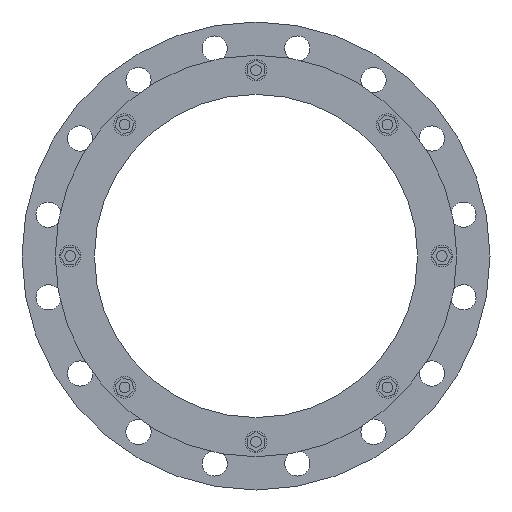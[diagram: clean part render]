
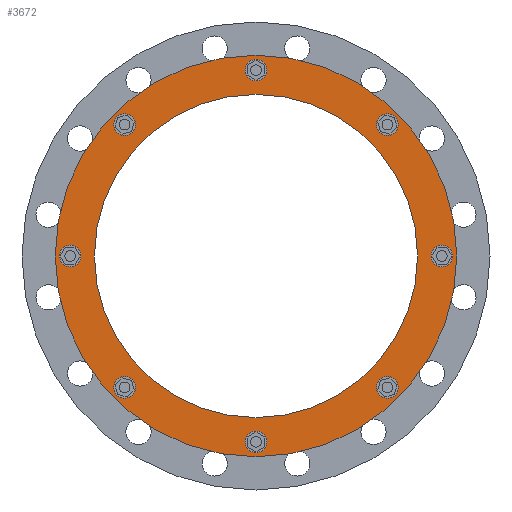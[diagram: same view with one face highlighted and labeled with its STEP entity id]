
A CAD part, front view. The second image highlights one B-rep face of the part: STEP entity #3672.
In plain terms, the highlighted planar face has unit normal (0, -1, 0).
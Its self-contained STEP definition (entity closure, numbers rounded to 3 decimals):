
#911=CARTESIAN_POINT('',(0.,-99.452,0.));
#912=DIRECTION('',(0.,-1.,0.));
#913=DIRECTION('',(1.,0.,0.));
#914=AXIS2_PLACEMENT_3D('',#911,#912,#913);
#916=CARTESIAN_POINT('',(0.,-99.452,0.));
#917=DIRECTION('',(0.,1.,0.));
#918=DIRECTION('',(1.,0.,0.));
#919=AXIS2_PLACEMENT_3D('',#916,#917,#918);
#921=CARTESIAN_POINT('',(206.5,-99.452,0.));
#922=DIRECTION('',(0.,-1.,0.));
#923=DIRECTION('',(0.,0.,-1.));
#924=AXIS2_PLACEMENT_3D('',#921,#922,#923);
#926=CARTESIAN_POINT('',(206.5,-99.452,0.));
#927=DIRECTION('',(0.,-1.,0.));
#928=DIRECTION('',(0.,0.,1.));
#929=AXIS2_PLACEMENT_3D('',#926,#927,#928);
#931=CARTESIAN_POINT('',(146.018,-99.452,146.018));
#932=DIRECTION('',(0.,-1.,0.));
#933=DIRECTION('',(0.707,0.,-0.707));
#934=AXIS2_PLACEMENT_3D('',#931,#932,#933);
#936=CARTESIAN_POINT('',(146.018,-99.452,146.018));
#937=DIRECTION('',(0.,-1.,0.));
#938=DIRECTION('',(-0.707,0.,0.707));
#939=AXIS2_PLACEMENT_3D('',#936,#937,#938);
#941=CARTESIAN_POINT('',(0.,-99.452,206.5));
#942=DIRECTION('',(0.,-1.,0.));
#943=DIRECTION('',(1.,0.,0.));
#944=AXIS2_PLACEMENT_3D('',#941,#942,#943);
#946=CARTESIAN_POINT('',(0.,-99.452,206.5));
#947=DIRECTION('',(0.,-1.,0.));
#948=DIRECTION('',(-1.,0.,0.));
#949=AXIS2_PLACEMENT_3D('',#946,#947,#948);
#951=CARTESIAN_POINT('',(-146.018,-99.452,146.018));
#952=DIRECTION('',(0.,-1.,0.));
#953=DIRECTION('',(0.707,0.,0.707));
#954=AXIS2_PLACEMENT_3D('',#951,#952,#953);
#956=CARTESIAN_POINT('',(-146.018,-99.452,146.018));
#957=DIRECTION('',(0.,-1.,0.));
#958=DIRECTION('',(-0.707,0.,-0.707));
#959=AXIS2_PLACEMENT_3D('',#956,#957,#958);
#961=CARTESIAN_POINT('',(-206.5,-99.452,0.));
#962=DIRECTION('',(0.,-1.,0.));
#963=DIRECTION('',(0.,0.,1.));
#964=AXIS2_PLACEMENT_3D('',#961,#962,#963);
#966=CARTESIAN_POINT('',(-206.5,-99.452,0.));
#967=DIRECTION('',(0.,-1.,0.));
#968=DIRECTION('',(0.,0.,-1.));
#969=AXIS2_PLACEMENT_3D('',#966,#967,#968);
#971=CARTESIAN_POINT('',(-146.018,-99.452,-146.018));
#972=DIRECTION('',(0.,-1.,0.));
#973=DIRECTION('',(-0.707,0.,0.707));
#974=AXIS2_PLACEMENT_3D('',#971,#972,#973);
#976=CARTESIAN_POINT('',(-146.018,-99.452,-146.018));
#977=DIRECTION('',(0.,-1.,0.));
#978=DIRECTION('',(0.707,0.,-0.707));
#979=AXIS2_PLACEMENT_3D('',#976,#977,#978);
#981=CARTESIAN_POINT('',(0.,-99.452,-206.5));
#982=DIRECTION('',(0.,-1.,0.));
#983=DIRECTION('',(-1.,0.,0.));
#984=AXIS2_PLACEMENT_3D('',#981,#982,#983);
#986=CARTESIAN_POINT('',(0.,-99.452,-206.5));
#987=DIRECTION('',(0.,-1.,0.));
#988=DIRECTION('',(1.,0.,0.));
#989=AXIS2_PLACEMENT_3D('',#986,#987,#988);
#991=CARTESIAN_POINT('',(146.018,-99.452,-146.018));
#992=DIRECTION('',(0.,-1.,0.));
#993=DIRECTION('',(-0.707,0.,-0.707));
#994=AXIS2_PLACEMENT_3D('',#991,#992,#993);
#996=CARTESIAN_POINT('',(146.018,-99.452,-146.018));
#997=DIRECTION('',(0.,-1.,0.));
#998=DIRECTION('',(0.707,0.,0.707));
#999=AXIS2_PLACEMENT_3D('',#996,#997,#998);
#1001=CARTESIAN_POINT('',(0.,-99.452,0.));
#1002=DIRECTION('',(0.,1.,0.));
#1003=DIRECTION('',(1.,0.,0.));
#1004=AXIS2_PLACEMENT_3D('',#1001,#1002,#1003);
#1014=CARTESIAN_POINT('',(0.,-99.452,0.));
#1015=DIRECTION('',(0.,-1.,0.));
#1016=DIRECTION('',(1.,0.,0.));
#1017=AXIS2_PLACEMENT_3D('',#1014,#1015,#1016);
#2385=CARTESIAN_POINT('',(223.1,-99.452,0.));
#2387=VERTEX_POINT('',#2385);
#2388=CARTESIAN_POINT('',(179.5,-99.452,0.));
#2390=VERTEX_POINT('',#2388);
#2397=CARTESIAN_POINT('',(-223.1,-99.452,0.));
#2399=VERTEX_POINT('',#2397);
#2400=CARTESIAN_POINT('',(-179.5,-99.452,0.));
#2402=VERTEX_POINT('',#2400);
#2439=CARTESIAN_POINT('',(206.5,-99.452,-12.));
#2440=CARTESIAN_POINT('',(206.5,-99.452,12.));
#2441=VERTEX_POINT('',#2439);
#2442=VERTEX_POINT('',#2440);
#2488=CARTESIAN_POINT('',(154.503,-99.452,137.532));
#2489=VERTEX_POINT('',#2488);
#2490=CARTESIAN_POINT('',(137.532,-99.452,154.503));
#2491=VERTEX_POINT('',#2490);
#2532=CARTESIAN_POINT('',(12.,-99.452,206.5));
#2533=VERTEX_POINT('',#2532);
#2534=CARTESIAN_POINT('',(-12.,-99.452,206.5));
#2535=VERTEX_POINT('',#2534);
#2576=CARTESIAN_POINT('',(-137.532,-99.452,154.503));
#2577=VERTEX_POINT('',#2576);
#2578=CARTESIAN_POINT('',(-154.503,-99.452,137.532));
#2579=VERTEX_POINT('',#2578);
#2620=CARTESIAN_POINT('',(-206.5,-99.452,12.));
#2621=VERTEX_POINT('',#2620);
#2622=CARTESIAN_POINT('',(-206.5,-99.452,-12.));
#2623=VERTEX_POINT('',#2622);
#2664=CARTESIAN_POINT('',(-154.503,-99.452,-137.532));
#2665=VERTEX_POINT('',#2664);
#2666=CARTESIAN_POINT('',(-137.532,-99.452,-154.503));
#2667=VERTEX_POINT('',#2666);
#2708=CARTESIAN_POINT('',(-12.,-99.452,-206.5));
#2709=VERTEX_POINT('',#2708);
#2710=CARTESIAN_POINT('',(12.,-99.452,-206.5));
#2711=VERTEX_POINT('',#2710);
#2752=CARTESIAN_POINT('',(137.532,-99.452,-154.503));
#2753=VERTEX_POINT('',#2752);
#2754=CARTESIAN_POINT('',(154.503,-99.452,-137.532));
#2755=VERTEX_POINT('',#2754);
#3609=CARTESIAN_POINT('',(0.,-99.452,0.));
#3610=DIRECTION('',(0.,1.,0.));
#3611=DIRECTION('',(-1.,0.,0.));
#3612=AXIS2_PLACEMENT_3D('',#3609,#3610,#3611);
#3613=PLANE('',#3612);
#3615=ORIENTED_EDGE('',*,*,#3614,.F.);
#3617=ORIENTED_EDGE('',*,*,#3616,.T.);
#3618=EDGE_LOOP('',(#3615,#3617));
#3619=FACE_OUTER_BOUND('',#3618,.F.);
#3621=ORIENTED_EDGE('',*,*,#3620,.F.);
#3623=ORIENTED_EDGE('',*,*,#3622,.T.);
#3624=EDGE_LOOP('',(#3621,#3623));
#3625=FACE_BOUND('',#3624,.F.);
#3627=ORIENTED_EDGE('',*,*,#3626,.T.);
#3629=ORIENTED_EDGE('',*,*,#3628,.T.);
#3630=EDGE_LOOP('',(#3627,#3629));
#3631=FACE_BOUND('',#3630,.F.);
#3633=ORIENTED_EDGE('',*,*,#3632,.T.);
#3635=ORIENTED_EDGE('',*,*,#3634,.T.);
#3636=EDGE_LOOP('',(#3633,#3635));
#3637=FACE_BOUND('',#3636,.F.);
#3639=ORIENTED_EDGE('',*,*,#3638,.T.);
#3641=ORIENTED_EDGE('',*,*,#3640,.T.);
#3642=EDGE_LOOP('',(#3639,#3641));
#3643=FACE_BOUND('',#3642,.F.);
#3645=ORIENTED_EDGE('',*,*,#3644,.T.);
#3647=ORIENTED_EDGE('',*,*,#3646,.T.);
#3648=EDGE_LOOP('',(#3645,#3647));
#3649=FACE_BOUND('',#3648,.F.);
#3651=ORIENTED_EDGE('',*,*,#3650,.T.);
#3653=ORIENTED_EDGE('',*,*,#3652,.T.);
#3654=EDGE_LOOP('',(#3651,#3653));
#3655=FACE_BOUND('',#3654,.F.);
#3657=ORIENTED_EDGE('',*,*,#3656,.T.);
#3659=ORIENTED_EDGE('',*,*,#3658,.T.);
#3660=EDGE_LOOP('',(#3657,#3659));
#3661=FACE_BOUND('',#3660,.F.);
#3662=ORIENTED_EDGE('',*,*,#3591,.T.);
#3663=ORIENTED_EDGE('',*,*,#3602,.T.);
#3664=EDGE_LOOP('',(#3662,#3663));
#3665=FACE_BOUND('',#3664,.F.);
#3667=ORIENTED_EDGE('',*,*,#3666,.T.);
#3669=ORIENTED_EDGE('',*,*,#3668,.T.);
#3670=EDGE_LOOP('',(#3667,#3669));
#3671=FACE_BOUND('',#3670,.F.);
#3672=ADVANCED_FACE('',(#3619,#3625,#3631,#3637,#3643,#3649,#3655,#3661,#3665,
#3671),#3613,.F.);
#915=CIRCLE('',#914,223.1);
#920=CIRCLE('',#919,223.1);
#925=CIRCLE('',#924,12.);
#930=CIRCLE('',#929,12.);
#935=CIRCLE('',#934,12.);
#940=CIRCLE('',#939,12.);
#945=CIRCLE('',#944,12.);
#950=CIRCLE('',#949,12.);
#955=CIRCLE('',#954,12.);
#960=CIRCLE('',#959,12.);
#965=CIRCLE('',#964,12.);
#970=CIRCLE('',#969,12.);
#975=CIRCLE('',#974,12.);
#980=CIRCLE('',#979,12.);
#985=CIRCLE('',#984,12.);
#990=CIRCLE('',#989,12.);
#995=CIRCLE('',#994,12.);
#1000=CIRCLE('',#999,12.);
#1005=CIRCLE('',#1004,179.5);
#1018=CIRCLE('',#1017,179.5);
#3591=EDGE_CURVE('',#2709,#2711,#985,.T.);
#3602=EDGE_CURVE('',#2711,#2709,#990,.T.);
#3614=EDGE_CURVE('',#2387,#2399,#915,.T.);
#3616=EDGE_CURVE('',#2387,#2399,#920,.T.);
#3620=EDGE_CURVE('',#2390,#2402,#1005,.T.);
#3622=EDGE_CURVE('',#2390,#2402,#1018,.T.);
#3626=EDGE_CURVE('',#2441,#2442,#925,.T.);
#3628=EDGE_CURVE('',#2442,#2441,#930,.T.);
#3632=EDGE_CURVE('',#2489,#2491,#935,.T.);
#3634=EDGE_CURVE('',#2491,#2489,#940,.T.);
#3638=EDGE_CURVE('',#2533,#2535,#945,.T.);
#3640=EDGE_CURVE('',#2535,#2533,#950,.T.);
#3644=EDGE_CURVE('',#2577,#2579,#955,.T.);
#3646=EDGE_CURVE('',#2579,#2577,#960,.T.);
#3650=EDGE_CURVE('',#2621,#2623,#965,.T.);
#3652=EDGE_CURVE('',#2623,#2621,#970,.T.);
#3656=EDGE_CURVE('',#2665,#2667,#975,.T.);
#3658=EDGE_CURVE('',#2667,#2665,#980,.T.);
#3666=EDGE_CURVE('',#2753,#2755,#995,.T.);
#3668=EDGE_CURVE('',#2755,#2753,#1000,.T.);
